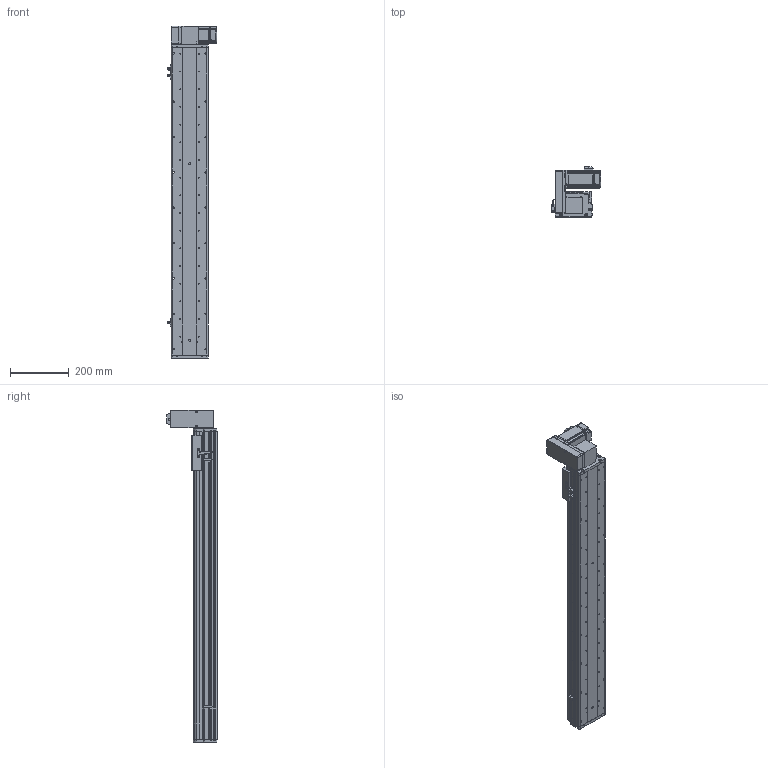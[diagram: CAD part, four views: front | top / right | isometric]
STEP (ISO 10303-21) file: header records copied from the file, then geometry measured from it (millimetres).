
FILE_DESCRIPTION (( 'STEP AP214' ), '1' );
FILE_NAME ('KSD125B-S850-MRU-CM.STEP', '2017-10-21T07:35:57', ( '微软用户' ), ( '微软中国' ), 'SwSTEP 2.0', 'SolidWorks 2014', '' );
FILE_SCHEMA (( 'AUTOMOTIVE_DESIGN' ));
Length unit declared in the file: millimetre
Products named in the file (17): KSD125模组同步带-滑动座1; KSD125B-S850-MRU-CM; 悵誘欶奻狟殏; HTPA30S3M150_A_H6_a佪裝蚚; HTPA30S3M150_A_H6_a萇儂蚚; 100宽马达安装板连板上下折丝杆同步带; KSD125模组850行程同步带-防尘盖; 125模组850行程同步带-底板; MHMD042G1CA_2_03; KSD125模组同步带-防撞垫2; 覜茼え68遵圉猾敕; U倰嫖萇假蚾璃; U倰嫖萇EEㄜSX672; KSD125模组同步带-防撞垫1; 100宽马达安装板同步带右; 前端板-125宽模组同步带; 125模组同步带-尾端板1
Assembly tree (20 placements, depth 2):
  KSD125B-S850-MRU-CM
    KSD125模组同步带-滑动座1
    125模组同步带-尾端板1
    前端板-125宽模组同步带
    100宽马达安装板同步带右
    KSD125模组同步带-防撞垫1
    U倰嫖萇EEㄜSX672  x3
    U倰嫖萇假蚾璃  x3
    覜茼え68遵圉猾敕
    KSD125模组同步带-防撞垫2
    MHMD042G1CA_2_03
    125模组850行程同步带-底板
    KSD125模组850行程同步带-防尘盖
    100宽马达安装板连板上下折丝杆同步带
    HTPA30S3M150_A_H6_a萇儂蚚
    HTPA30S3M150_A_H6_a佪裝蚚
    悵誘欶奻狟殏
Bounding box: 168.7 x 170.5 x 1127 mm (x, y, z)
Volume: 3525553.7 mm3; surface area: 1194377.6 mm2
Topology: 19 solids, 22 shells, 2293 faces, 6643 edges, 4390 vertices
Faces by surface type: cylinder 1440, plane 726, cone 105, bspline 22
Entity records: 81593 total; most frequent: CARTESIAN_POINT 16101, DIRECTION 12684, ORIENTED_EDGE 11806, EDGE_CURVE 5981, AXIS2_PLACEMENT_3D 4905, VERTEX_POINT 3982, VECTOR 2874, LINE 2874
